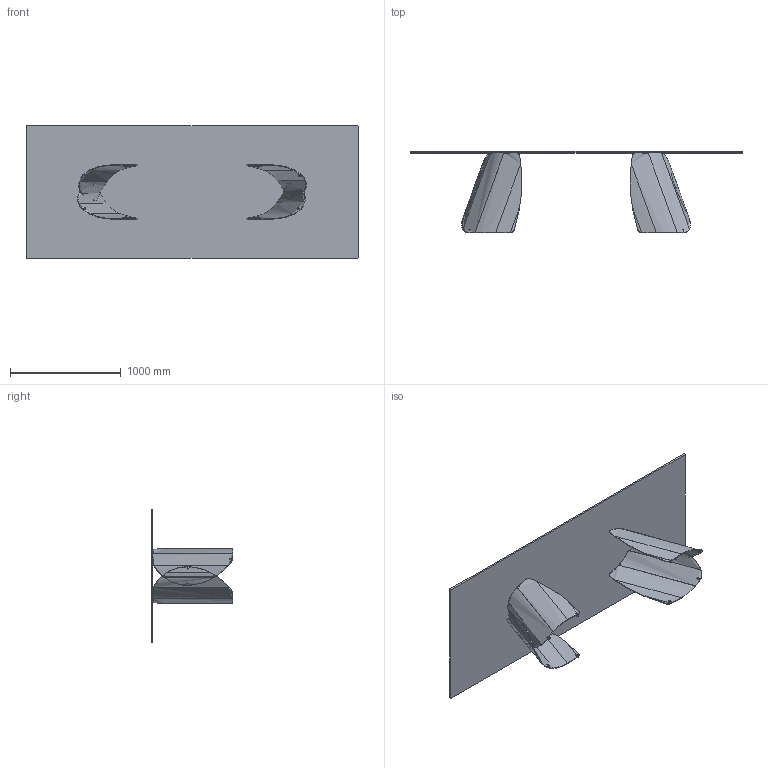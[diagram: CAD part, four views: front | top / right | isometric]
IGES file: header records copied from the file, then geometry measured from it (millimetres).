
Start section: SolidWorks IGES file using analytic representation for surfaces
Global section: file name: Y:\eforma\TECNICO\SOLIDWORKS\E-FORMA\1-TAVOLI\PERLA\02 parts\PA24G_Perla 300x120_Glass Rectangular.IGS; native system: SolidWorks 2022; preprocessor: SolidWorks 2022; author: eforma.tech; date: 240801.145344; units: millimetre
Bounding box: 3000 x 736.5 x 1200 mm (x, y, z)
Volume: 63978712.1 mm3; surface area: 10723579.7 mm2
Topology: 33 solids, 33 shells, 476 faces, 1054 edges, 644 vertices
Faces by surface type: revolution 240, bspline 130, plane 106
